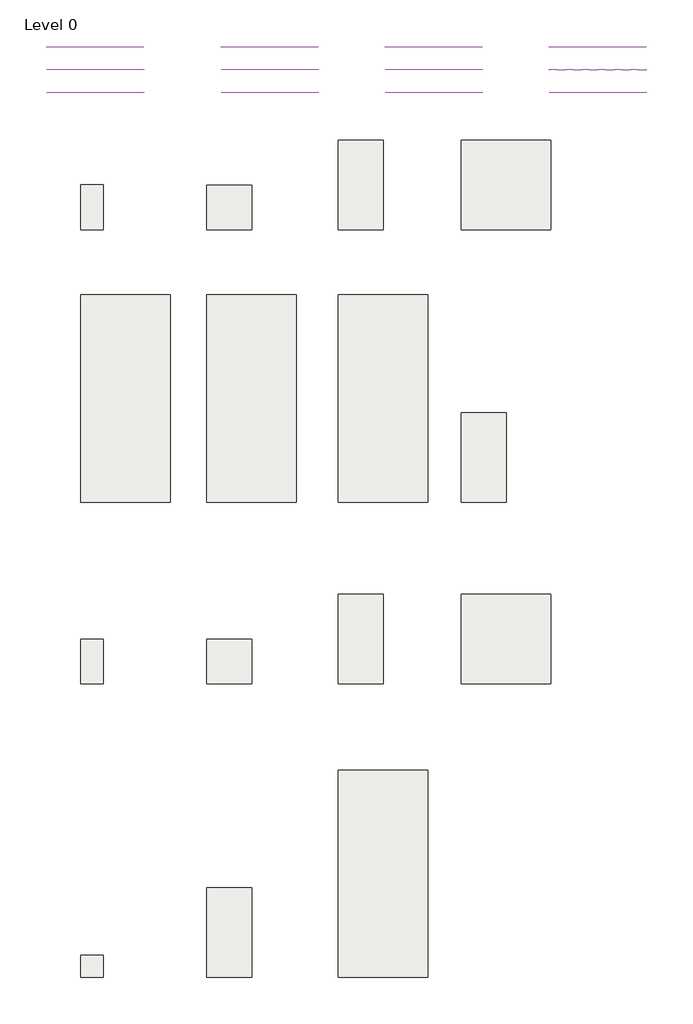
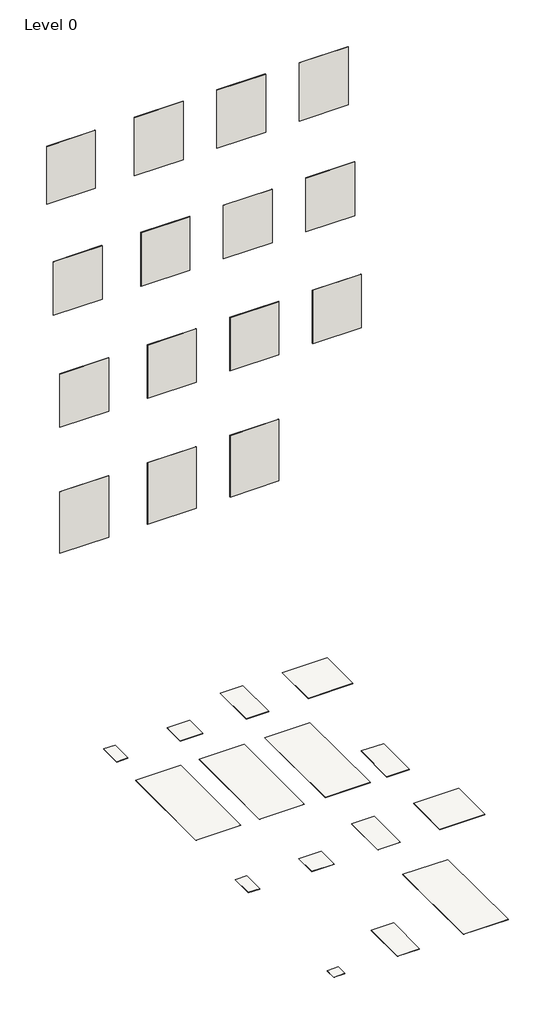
# One storey: 15 slabs, 15 walls.
"""IFC4 building model written with IfcOpenShell, lengths in millimetres."""

from ifc_helpers import new_model, si_unit, frame, origin, place, context, project, spatial, polyline, outline, extrude, element, save

model = new_model("IFC4")

# Units and contexts
model_context = context("Model", 3, world=origin())
ifc_project = project(units=[si_unit("LENGTHUNIT", "METRE", prefix="MILLI")], contexts=[model_context])

# Site, building, storey
site = spatial("IfcSite", under=ifc_project)
building = spatial("IfcBuilding", under=site)
storey = spatial("IfcBuildingStorey", under=building, Name="Level 0", Elevation=0.0)

# Slabs
placement = place(None, origin())
element("IfcSlab", 1, ObjectType="Floor_Tiles_Refin-Prestigio-Calacatta-Oro-Lucido-60x120 RC42", at=placement, inside=storey, context=model_context, shape_type="SweptSolid", body=[
    extrude(outline(polyline([(10427.1861419, 6889.4623743), (10427.1861419, 5689.4623743), (9827.1861419, 5689.4623743), (9827.1861419, 6889.4623743), (10427.1861419, 6889.4623743)])), frame((0.0, 0.0, -10.0), z_axis=(0.0, 0.0, 1.0), x_axis=(1.0, 0.0, 0.0)), (0.0, 0.0, 1.0), 10.0),
])
element("IfcSlab", 2, ObjectType="Floor_Tiles_Refin-Prestigio-Calacatta-Oro-Lucido-30x60 RC57", at=placement, inside=storey, context=model_context, shape_type="SweptSolid", body=[
    extrude(outline(polyline([(6674.3752062, 6289.4623743), (6674.3752062, 5689.4623743), (6374.3752062, 5689.4623743), (6374.3752062, 6289.4623743), (6674.3752062, 6289.4623743)])), frame((0.0, 0.0, -10.0), z_axis=(0.0, 0.0, 1.0), x_axis=(1.0, 0.0, 0.0)), (0.0, 0.0, 1.0), 10.0),
])
element("IfcSlab", 3, ObjectType="Floor_Tiles_Refin-Prestigio-Calacatta-Oro-Lucido-60x60 RA49", at=placement, inside=storey, context=model_context, shape_type="SweptSolid", body=[
    extrude(outline(polyline([(8667.3924055, 6288.4192064), (8667.3924055, 5688.4192064), (8067.3924055, 5688.4192064), (8067.3924055, 6288.4192064), (8667.3924055, 6288.4192064)])), frame((0.0, 0.0, -10.0), z_axis=(0.0, 0.0, 1.0), x_axis=(1.0, 0.0, 0.0)), (0.0, 0.0, 1.0), 10.0),
])
element("IfcSlab", 4, ObjectType="Floor_Tiles_Refin-Prestigio-Calacatta-Oro-Lucido-120x120 OY47", at=placement, inside=storey, context=model_context, shape_type="SweptSolid", body=[
    extrude(outline(polyline([(12677.1861419, 6889.4623743), (12677.1861419, 5689.4623743), (11477.1861419, 5689.4623743), (11477.1861419, 6889.4623743), (12677.1861419, 6889.4623743)])), frame((0.0, 0.0, -10.0), z_axis=(0.0, 0.0, 1.0), x_axis=(1.0, 0.0, 0.0)), (0.0, 0.0, 1.0), 10.0),
])
element("IfcSlab", 5, ObjectType="Floor_Tiles_Refin-Prestigio-Calacatta-Oro-Onde-60x120 RB12", at=placement, inside=storey, context=model_context, shape_type="SweptSolid", body=[
    extrude(outline(polyline([(8665.6181323, -3132.5889273), (8665.6181323, -4332.5889273), (8065.6181323, -4332.5889273), (8065.6181323, -3132.5889273), (8665.6181323, -3132.5889273)])), frame((0.0, 0.0, -10.0), z_axis=(0.0, 0.0, 1.0), x_axis=(1.0, 0.0, 0.0)), (0.0, 0.0, 1.0), 10.0),
])
element("IfcSlab", 6, ObjectType="Floor_Tiles_Refin-Prestigio-Calacatta-Oro-Lucido-120x278 RA36", at=placement, inside=storey, context=model_context, shape_type="SweptSolid", body=[
    extrude(outline(polyline([(7574.3752062, 4819.4623743), (7574.3752062, 2039.4623743), (6374.3752062, 2039.4623743), (6374.3752062, 4819.4623743), (7574.3752062, 4819.4623743)])), frame((0.0, 0.0, -7.0), z_axis=(0.0, 0.0, 1.0), x_axis=(1.0, 0.0, 0.0)), (0.0, 0.0, 1.0), 7.0),
])
element("IfcSlab", 7, ObjectType="Floor_Tiles_Refin-Prestigio-Calacatta-Oro-Lucido-Craquele-120x278 RB39", at=placement, inside=storey, context=model_context, shape_type="SweptSolid", body=[
    extrude(outline(polyline([(9267.3924055, 4819.4623743), (9267.3924055, 2039.4623743), (8067.3924055, 2039.4623743), (8067.3924055, 4819.4623743), (9267.3924055, 4819.4623743)])), frame((0.0, 0.0, -7.0), z_axis=(0.0, 0.0, 1.0), x_axis=(1.0, 0.0, 0.0)), (0.0, 0.0, 1.0), 7.0),
])
element("IfcSlab", 8, ObjectType="Floor_Tiles_Refin-Prestigio-Calacatta-Oro-Lucido-Mesh-120x278 RB41", at=placement, inside=storey, context=model_context, shape_type="SweptSolid", body=[
    extrude(outline(polyline([(11027.1861419, 4819.4623743), (11027.1861419, 2039.4623743), (9827.1861419, 2039.4623743), (9827.1861419, 4819.4623743), (11027.1861419, 4819.4623743)])), frame((0.0, 0.0, -7.0), z_axis=(0.0, 0.0, 1.0), x_axis=(1.0, 0.0, 0.0)), (0.0, 0.0, 1.0), 7.0),
])
element("IfcSlab", 9, ObjectType="Floor_Tiles_Refin-Prestigio-Calacatta-Oro-Matt-60x120 RC52", at=placement, inside=storey, context=model_context, shape_type="SweptSolid", body=[
    extrude(outline(polyline([(12077.1861419, 3239.4623743), (12077.1861419, 2039.4623743), (11477.1861419, 2039.4623743), (11477.1861419, 3239.4623743), (12077.1861419, 3239.4623743)])), frame((0.0, 0.0, -10.0), z_axis=(0.0, 0.0, 1.0), x_axis=(1.0, 0.0, 0.0)), (0.0, 0.0, 1.0), 10.0),
])
element("IfcSlab", 10, ObjectType="Floor_Tiles_Refin-Prestigio-Calacatta-Oro-Soft-30x60 RC62", at=placement, inside=storey, context=model_context, shape_type="SweptSolid", body=[
    extrude(outline(polyline([(6674.3752062, 203.4367235), (6674.3752062, -396.5632765), (6374.3752062, -396.5632765), (6374.3752062, 203.4367235), (6674.3752062, 203.4367235)])), frame((0.0, 0.0, -10.0), z_axis=(0.0, 0.0, 1.0), x_axis=(1.0, 0.0, 0.0)), (0.0, 0.0, 1.0), 10.0),
])
element("IfcSlab", 11, ObjectType="Floor_Tiles_Refin-Prestigio-Calacatta-Oro-Soft-60x120 RC47", at=placement, inside=storey, context=model_context, shape_type="SweptSolid", body=[
    extrude(outline(polyline([(10427.1861419, 803.4367235), (10427.1861419, -396.5632765), (9827.1861419, -396.5632765), (9827.1861419, 803.4367235), (10427.1861419, 803.4367235)])), frame((0.0, 0.0, -7.0), z_axis=(0.0, 0.0, 1.0), x_axis=(1.0, 0.0, 0.0)), (0.0, 0.0, 1.0), 7.0),
])
element("IfcSlab", 12, ObjectType="Floor_Tiles_Refin-Prestigio-Calacatta-Oro-Soft-120x120 OY58", at=placement, inside=storey, context=model_context, shape_type="SweptSolid", body=[
    extrude(outline(polyline([(12677.1861419, 803.4367235), (12677.1861419, -396.5632765), (11477.1861419, -396.5632765), (11477.1861419, 803.4367235), (12677.1861419, 803.4367235)])), frame((0.0, 0.0, -10.0), z_axis=(0.0, 0.0, 1.0), x_axis=(1.0, 0.0, 0.0)), (0.0, 0.0, 1.0), 10.0),
])
element("IfcSlab", 13, ObjectType="Floor_Tiles_Refin-Prestigio-Calacatta-Oro-Soft-60x60 RB85", at=placement, inside=storey, context=model_context, shape_type="SweptSolid", body=[
    extrude(outline(polyline([(8667.3924055, 203.4367235), (8667.3924055, -396.5632765), (8067.3924055, -396.5632765), (8067.3924055, 203.4367235), (8667.3924055, 203.4367235)])), frame((0.0, 0.0, -10.0), z_axis=(0.0, 0.0, 1.0), x_axis=(1.0, 0.0, 0.0)), (0.0, 0.0, 1.0), 10.0),
])
element("IfcSlab", 14, ObjectType="Floor_Tiles_Refin-Prestigio-Calacatta-Oro-Mosaico-30x30 RB56", at=placement, inside=storey, context=model_context, shape_type="SweptSolid", body=[
    extrude(outline(polyline([(6674.3752062, -4032.5889273), (6674.3752062, -4332.5889273), (6374.3752062, -4332.5889273), (6374.3752062, -4032.5889273), (6674.3752062, -4032.5889273)])), frame((0.0, 0.0, -10.0), z_axis=(0.0, 0.0, 1.0), x_axis=(1.0, 0.0, 0.0)), (0.0, 0.0, 1.0), 10.0),
])
element("IfcSlab", 15, ObjectType="Floor_Tiles_Refin-Prestigio-Calacatta-Oro-120x278 RA40", at=placement, inside=storey, context=model_context, shape_type="SweptSolid", body=[
    extrude(outline(polyline([(11027.1861419, -1552.5889273), (11027.1861419, -4332.5889273), (9827.1861419, -4332.5889273), (9827.1861419, -1552.5889273), (11027.1861419, -1552.5889273)])), frame((0.0, 0.0, -7.0), z_axis=(0.0, 0.0, 1.0), x_axis=(1.0, 0.0, 0.0)), (0.0, 0.0, 1.0), 7.0),
])

# Walls
element("IfcWall", 16, ObjectType="Wall_Tiles_Refin-Prestigio-Calacatta-Oro-Lucido-60x60 RA49", at=placement, inside=storey, context=model_context, shape_type="SweptSolid", body=[
    extrude(outline(polyline([(9557.3752062, 8132.3838631), (8257.3752062, 8132.3838631), (8257.3752062, 8142.3838631), (9557.3752062, 8142.3838631), (9557.3752062, 8132.3838631)])), frame((0.0, 0.0, 14387.6770443), z_axis=(0.0, 0.0, 1.0), x_axis=(1.0, 0.0, 0.0)), (0.0, 0.0, 1.0), 1641.7417352),
])
element("IfcWall", 17, ObjectType="Wall_Tiles_Refin-Prestigio-Calacatta-Oro-Lucido-60x120 RC42", at=placement, inside=storey, context=model_context, shape_type="SweptSolid", body=[
    extrude(outline(polyline([(11757.3752062, 8132.3838631), (10457.3752062, 8132.3838631), (10457.3752062, 8142.3838631), (11757.3752062, 8142.3838631), (11757.3752062, 8132.3838631)])), frame((0.0, 0.0, 14387.6770443), z_axis=(0.0, 0.0, 1.0), x_axis=(1.0, 0.0, 0.0)), (0.0, 0.0, 1.0), 1641.7417352),
])
element("IfcWall", 18, ObjectType="Wall_Tiles_Refin-Prestigio-Calacatta-Oro-Lucido-30x60 RC57", at=placement, inside=storey, context=model_context, shape_type="SweptSolid", body=[
    extrude(outline(polyline([(7217.3752062, 8132.3838631), (5917.3752062, 8132.3838631), (5917.3752062, 8142.3838631), (7217.3752062, 8142.3838631), (7217.3752062, 8132.3838631)])), frame((0.0, 0.0, 14403.7267346), z_axis=(0.0, 0.0, 1.0), x_axis=(1.0, 0.0, 0.0)), (0.0, 0.0, 1.0), 1625.692045),
])
element("IfcWall", 19, ObjectType="Wall_Tiles_Refin-Prestigio-Calacatta-Oro-Lucido-120x278 RA36", at=placement, inside=storey, context=model_context, shape_type="SweptSolid", body=[
    extrude(outline(polyline([(7217.3752062, 7828.8838631), (5917.3752062, 7828.8838631), (5917.3752062, 7835.8838631), (7217.3752062, 7835.8838631), (7217.3752062, 7828.8838631)])), frame((0.0, 0.0, 11452.5436262), z_axis=(0.0, 0.0, 1.0), x_axis=(1.0, 0.0, 0.0)), (0.0, 0.0, 1.0), 1513.1985566),
])
element("IfcWall", 20, ObjectType="Wall_Tiles_Refin-Prestigio-Calacatta-Oro-Lucido-Craquele-120x278 RB39", at=placement, inside=storey, context=model_context, shape_type="SweptSolid", body=[
    extrude(outline(polyline([(9557.3752062, 7828.8838631), (8257.3752062, 7828.8838631), (8257.3752062, 7835.8838631), (9557.3752062, 7835.8838631), (9557.3752062, 7828.8838631)])), frame((0.0, 0.0, 11452.5436262), z_axis=(0.0, 0.0, 1.0), x_axis=(1.0, 0.0, 0.0)), (0.0, 0.0, 1.0), 1513.1985566),
])
element("IfcWall", 21, ObjectType="Wall_Tiles_Refin-Prestigio-Calacatta-Oro-Lucido-Mesh-120x278 RB41", at=placement, inside=storey, context=model_context, shape_type="SweptSolid", body=[
    extrude(outline(polyline([(11757.3752062, 7828.8838631), (10457.3752062, 7828.8838631), (10457.3752062, 7835.8838631), (11757.3752062, 7835.8838631), (11757.3752062, 7828.8838631)])), frame((0.0, 0.0, 11452.5436262), z_axis=(0.0, 0.0, 1.0), x_axis=(1.0, 0.0, 0.0)), (0.0, 0.0, 1.0), 1513.1985566),
])
element("IfcWall", 22, ObjectType="Wall_Tiles_Refin-Prestigio-Calacatta-Oro-Soft-30x60 RC62", at=placement, inside=storey, context=model_context, shape_type="SweptSolid", body=[
    extrude(outline(polyline([(7217.3752062, 7522.3838631), (5917.3752062, 7522.3838631), (5917.3752062, 7532.3838631), (7217.3752062, 7532.3838631), (7217.3752062, 7522.3838631)])), frame((0.0, 0.0, 8479.1027214), z_axis=(0.0, 0.0, 1.0), x_axis=(1.0, 0.0, 0.0)), (0.0, 0.0, 1.0), 1502.5740159),
])
element("IfcWall", 23, ObjectType="Wall_Tiles_Refin-Prestigio-Calacatta-Oro-Soft-60x60 RB85", at=placement, inside=storey, context=model_context, shape_type="SweptSolid", body=[
    extrude(outline(polyline([(9557.3752062, 7522.3838631), (8257.3752062, 7522.3838631), (8257.3752062, 7532.3838631), (9557.3752062, 7532.3838631), (9557.3752062, 7522.3838631)])), frame((0.0, 0.0, 8479.1027214), z_axis=(0.0, 0.0, 1.0), x_axis=(1.0, 0.0, 0.0)), (0.0, 0.0, 1.0), 1502.5740159),
])
element("IfcWall", 24, ObjectType="Wall_Tiles_Refin-Prestigio-Calacatta-Oro-Soft-60x120 RC47", at=placement, inside=storey, context=model_context, shape_type="SweptSolid", body=[
    extrude(outline(polyline([(11757.3752062, 7522.3838631), (10457.3752062, 7522.3838631), (10457.3752062, 7532.3838631), (11757.3752062, 7532.3838631), (11757.3752062, 7522.3838631)])), frame((0.0, 0.0, 8479.1027214), z_axis=(0.0, 0.0, 1.0), x_axis=(1.0, 0.0, 0.0)), (0.0, 0.0, 1.0), 1502.5740159),
])
element("IfcWall", 25, ObjectType="Wall_Tiles_Refin-Prestigio-Calacatta-Oro-Lucido-120x120 OY47", at=placement, inside=storey, context=model_context, shape_type="SweptSolid", body=[
    extrude(outline(polyline([(13957.3752062, 8132.3838631), (12657.3752062, 8132.3838631), (12657.3752062, 8142.3838631), (13957.3752062, 8142.3838631), (13957.3752062, 8132.3838631)])), frame((0.0, 0.0, 14387.6770443), z_axis=(0.0, 0.0, 1.0), x_axis=(1.0, 0.0, 0.0)), (0.0, 0.0, 1.0), 1641.7417352),
])
element("IfcWall", 26, ObjectType="Wall_Tiles_Refin-Prestigio-Calacatta-Oro-Matt-60x120 RC52", at=placement, inside=storey, context=model_context, shape_type="SweptSolid", body=[
    extrude(outline(polyline([(13957.3752062, 7827.3838631), (12657.3752062, 7827.3838631), (12657.3752062, 7837.3838631), (13957.3752062, 7837.3838631), (13957.3752062, 7827.3838631)])), frame((0.0, 0.0, 11452.5436262), z_axis=(0.0, 0.0, 1.0), x_axis=(1.0, 0.0, 0.0)), (0.0, 0.0, 1.0), 1513.1985566),
])
element("IfcWall", 27, ObjectType="Wall_Tiles_Refin-Prestigio-Calacatta-Oro-Soft-120x120 OY58", at=placement, inside=storey, context=model_context, shape_type="SweptSolid", body=[
    extrude(outline(polyline([(13957.3752062, 7522.3838631), (12657.3752062, 7522.3838631), (12657.3752062, 7532.3838631), (13957.3752062, 7532.3838631), (13957.3752062, 7522.3838631)])), frame((0.0, 0.0, 8479.1027214), z_axis=(0.0, 0.0, 1.0), x_axis=(1.0, 0.0, 0.0)), (0.0, 0.0, 1.0), 1502.5740159),
])
element("IfcWall", 28, ObjectType="Wall_Tiles_Refin-Prestigio-Calacatta-Oro-Onde-60x120 RB12", at=placement, inside=storey, context=model_context, shape_type="SweptSolid", body=[
    extrude(outline(polyline([(9557.3752062, 7522.3838631), (8257.3752062, 7522.3838631), (8257.3752062, 7532.3838631), (9557.3752062, 7532.3838631), (9557.3752062, 7522.3838631)])), frame((0.0, 0.0, 4921.0785975), z_axis=(0.0, 0.0, 1.0), x_axis=(1.0, 0.0, 0.0)), (0.0, 0.0, 1.0), 1733.8430465),
])
element("IfcWall", 29, ObjectType="Wall_Tiles_Refin-Prestigio-Calacatta-Oro-Mosaico-30x30 RB56", at=placement, inside=storey, context=model_context, shape_type="SweptSolid", body=[
    extrude(outline(polyline([(7217.3752062, 7522.3838631), (5917.3752062, 7522.3838631), (5917.3752062, 7532.3838631), (7217.3752062, 7532.3838631), (7217.3752062, 7522.3838631)])), frame((0.0, 0.0, 4921.0785975), z_axis=(0.0, 0.0, 1.0), x_axis=(1.0, 0.0, 0.0)), (0.0, 0.0, 1.0), 1733.8430465),
])
element("IfcWall", 30, ObjectType="Wall_Tiles_Refin-Prestigio-Calacatta-Oro-Soft-120x278 RA40", at=placement, inside=storey, context=model_context, shape_type="SweptSolid", body=[
    extrude(outline(polyline([(11757.3752062, 7523.8838631), (10457.3752062, 7523.8838631), (10457.3752062, 7530.8838631), (11757.3752062, 7530.8838631), (11757.3752062, 7523.8838631)])), frame((0.0, 0.0, 4921.0785975), z_axis=(0.0, 0.0, 1.0), x_axis=(1.0, 0.0, 0.0)), (0.0, 0.0, 1.0), 1733.8430465),
])

save(model, "model.ifc")
